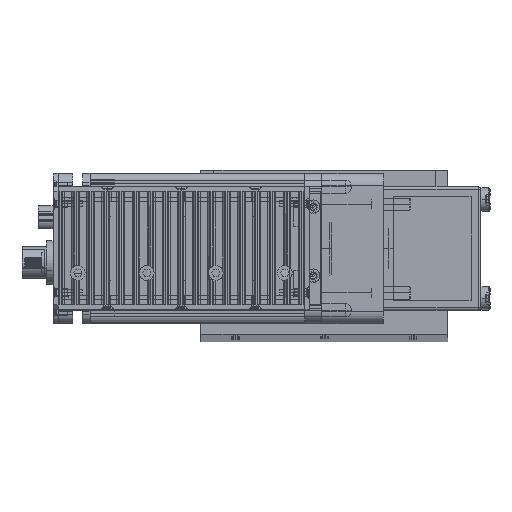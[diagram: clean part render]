
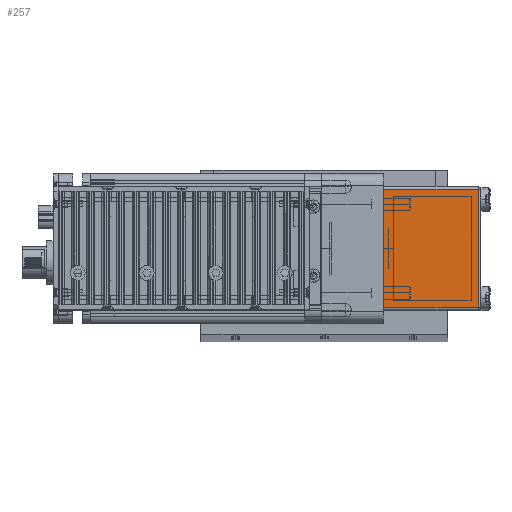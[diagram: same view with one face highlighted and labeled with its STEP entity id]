
A CAD part, top view. The second image highlights one B-rep face of the part: STEP entity #257.
In plain terms, the highlighted planar face has unit normal (0, 0, 1) as drawn and (1, 0, 0) by its records, which use the part's own axes.
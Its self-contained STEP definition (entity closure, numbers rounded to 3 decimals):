
#255 = EDGE_CURVE ( 'NONE', #47076, #42361, #27334, .T. ) ;
#257 = ADVANCED_FACE ( 'NONE', ( #27332 ), #27331, .F. ) ;
#267 = EDGE_LOOP ( 'NONE', ( #50186, #50181, #50139, #50148 ) ) ;
#19273 = CARTESIAN_POINT ( 'NONE',  ( 62., 24., 0. ) ) ;
#19593 = CARTESIAN_POINT ( 'NONE',  ( 62., -24., 38.5 ) ) ;
#20413 = DIRECTION ( 'NONE',  ( 0., 0., -1. ) ) ;
#20415 = VECTOR ( 'NONE', #20413, 1000. ) ;
#20419 = CARTESIAN_POINT ( 'NONE',  ( 62., 24., 39.5 ) ) ;
#20421 = LINE ( 'NONE', #20419, #20415 ) ;
#20571 = CARTESIAN_POINT ( 'NONE',  ( 62., 24., 38.5 ) ) ;
#20620 = CARTESIAN_POINT ( 'NONE',  ( 62., -24., 0. ) ) ;
#20646 = DIRECTION ( 'NONE',  ( 0., 0., 1. ) ) ;
#20647 = VECTOR ( 'NONE', #20646, 1000. ) ;
#20649 = CARTESIAN_POINT ( 'NONE',  ( 62., -24., 39.5 ) ) ;
#20651 = LINE ( 'NONE', #20649, #20647 ) ;
#27312 = CARTESIAN_POINT ( 'NONE',  ( 62., 25., 39.5 ) ) ;
#27331 = PLANE ( 'NONE',  #27441 ) ;
#27332 = FACE_OUTER_BOUND ( 'NONE', #267, .T. ) ;
#27333 = CARTESIAN_POINT ( 'NONE',  ( 62., -25., 0. ) ) ;
#27334 = LINE ( 'NONE', #27333, #27446 ) ;
#27348 = DIRECTION ( 'NONE',  ( -1., 0., 0. ) ) ;
#27428 = DIRECTION ( 'NONE',  ( 0., -1., 0. ) ) ;
#27441 = AXIS2_PLACEMENT_3D ( 'NONE', #27312, #27348, #27428 ) ;
#27444 = DIRECTION ( 'NONE',  ( 0., 1., 0. ) ) ;
#27446 = VECTOR ( 'NONE', #27444, 1000. ) ;
#30477 = DIRECTION ( 'NONE',  ( 0., 1., 0. ) ) ;
#30478 = VECTOR ( 'NONE', #30477, 1000. ) ;
#30491 = CARTESIAN_POINT ( 'NONE',  ( 62., -25., 38.5 ) ) ;
#30495 = LINE ( 'NONE', #30491, #30478 ) ;
#42361 = VERTEX_POINT ( 'NONE', #19273 ) ;
#43580 = VERTEX_POINT ( 'NONE', #19593 ) ;
#45546 = EDGE_CURVE ( 'NONE', #46105, #42361, #20421, .T. ) ;
#46105 = VERTEX_POINT ( 'NONE', #20571 ) ;
#46856 = EDGE_CURVE ( 'NONE', #47076, #43580, #20651, .T. ) ;
#47076 = VERTEX_POINT ( 'NONE', #20620 ) ;
#50139 = ORIENTED_EDGE ( 'NONE', *, *, #45546, .F. ) ;
#50148 = ORIENTED_EDGE ( 'NONE', *, *, #50187, .F. ) ;
#50181 = ORIENTED_EDGE ( 'NONE', *, *, #255, .T. ) ;
#50186 = ORIENTED_EDGE ( 'NONE', *, *, #46856, .F. ) ;
#50187 = EDGE_CURVE ( 'NONE', #43580, #46105, #30495, .T. ) ;
